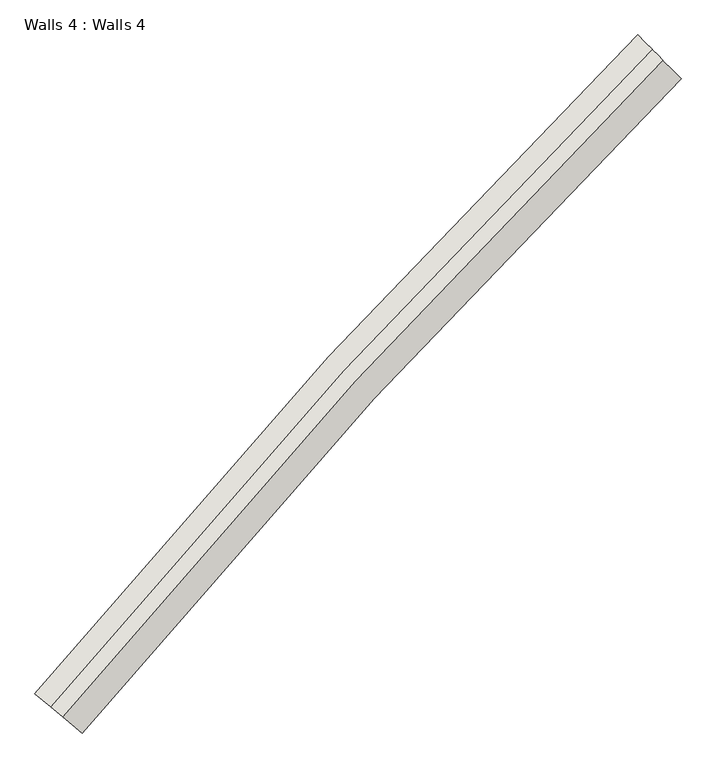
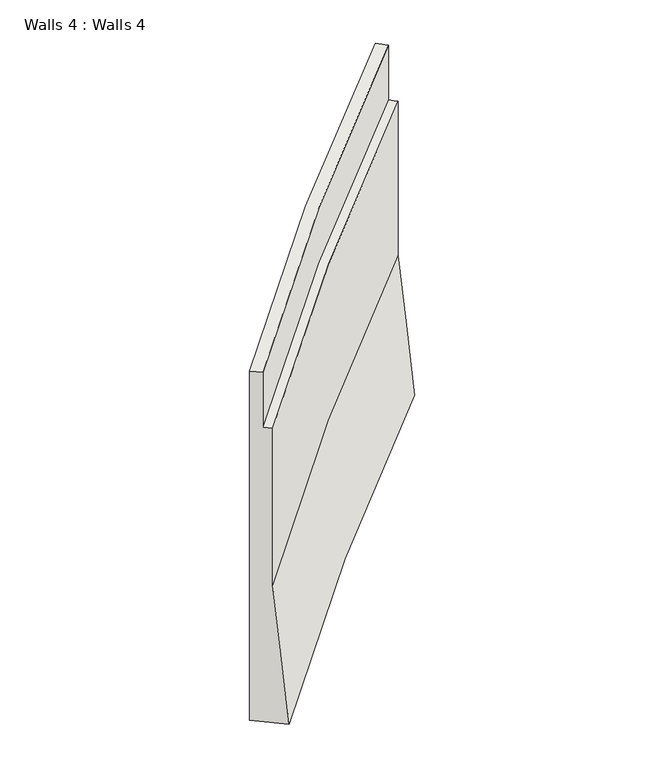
"""IFC4 building model written with IfcOpenShell, lengths in millimetres: wall geometry, Walls 4 : Walls 4."""

from ifc_helpers import new_model, si_unit, frame, origin, place, context, project, spatial, source, transform, mapped, element, save
from ifc_brep_helpers import plane_surface, spline_curve, spline_surface, advanced_brep


def walls_4_walls_4_8975972d(model_context):
    return source(origin(), model_context, "Body", "AdvancedBrep", [
        advanced_brep(
        [(-332545.4322119, -478168.2290481, 640640.0), (-332404.6384625, -478310.2752382, 640640.0), (-332404.6384625, -478310.2752382, 639640.0), (-332299.0431504, -478416.8098808, 639640.0), (-332299.0431504, -478416.8098808, 636840.0), (-332123.0509637, -478594.3676184, 634340.0), (-332545.4322119, -478168.2290481, 634340.0), (-338419.0343239, -484581.6428437, 640610.0), (-338419.0343239, -484581.6428437, 634250.0), (-337957.4957283, -484965.0253221, 634250.0), (-338149.8034764, -484805.2826228, 636750.0), (-338149.8034764, -484805.2826228, 639610.0), (-338265.1881254, -484709.4370032, 639610.0), (-338265.1881254, -484709.4370032, 640610.0)],
        [
            (0, 1),
            (1, 2),
            (2, 3),
            (3, 4),
            (4, 5),
            (5, 6),
            (6, 0),
            (7, 8),
            (8, 9),
            (9, 10),
            (10, 11),
            (11, 12),
            (12, 13),
            (13, 7),
            (7, 0, spline_curve(3, [(-338419.0343239, -484581.6428437, 640610.0), (-337492.526667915, -483466.257904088, 640615.000000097), (-336539.058668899, -482373.267976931, 640619.999999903), (-334580.428880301, -480234.630890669, 640630.000000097), (-333575.267090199, -479188.983731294, 640634.999999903), (-332545.4322119, -478168.2290481, 640640.0)], [4, 2, 4], [0.0, 14.270559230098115, 28.541118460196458])),
            (6, 8, spline_curve(3, [(-332545.4322119, -478168.2290481, 634340.0), (-333575.267090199, -479188.983731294, 634325.000000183), (-334580.428880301, -480234.630890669, 634309.999999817), (-336539.058668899, -482373.267976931, 634280.000000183), (-337492.526667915, -483466.257904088, 634264.999999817), (-338419.0343239, -484581.6428437, 634250.0)], [4, 2, 4], [0.0, 14.270559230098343, 28.541118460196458])),
            (13, 1, spline_curve(3, [(-338265.1881254, -484709.4370032, 640610.0), (-337340.739374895, -483596.530696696, 640614.9999998), (-336389.390194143, -482505.969636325, 640620.0000002), (-334435.112916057, -480372.085076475, 640629.9999998), (-333432.184819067, -479328.76157772, 640635.0000002), (-332404.6384625, -478310.2752382, 640640.0)], [4, 2, 4], [0.0, 14.254448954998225, 28.50889790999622])),
            (11, 3, spline_curve(3, [(-338149.8034764, -484805.2826228, 639610.0), (-337226.89890563, -483694.235291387, 639614.99999984), (-336277.138837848, -482605.495880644, 639620.00000016), (-334326.125942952, -480475.175716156, 639629.99999984), (-333324.873115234, -479433.594962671, 639635.00000016), (-332299.0431504, -478416.8098808, 639640.0)], [4, 2, 4], [0.0, 14.226701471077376, 28.453402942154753])),
            (2, 12, spline_curve(3, [(-332404.6384625, -478310.2752382, 639640.0), (-333432.184819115, -479328.76157796, 639635.00000016), (-334435.11291613, -480372.085076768, 639629.99999984), (-336389.39019407, -482505.969636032, 639620.00000016), (-337340.739375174, -483596.530696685, 639614.99999984), (-338265.1881254, -484709.4370032, 639610.0)], [4, 2, 4], [0.0, 14.226701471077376, 28.453402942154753])),
            (9, 5, spline_curve(3, [(-337957.4957283, -484965.0253221, 634250.0), (-337037.164790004, -483857.076282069, 634264.999999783), (-336090.053244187, -482771.372954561, 634280.000000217), (-334144.480987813, -480646.993448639, 634309.999999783), (-333146.020276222, -479608.31727033, 634325.000000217), (-332123.0509637, -478594.3676184, 634340.0)], [4, 2, 4], [0.0, 14.195672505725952, 28.39134501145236])),
            (4, 10, spline_curve(3, [(-332299.0431504, -478416.8098808, 636840.0), (-333324.873115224, -479433.594962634, 636825.000000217), (-334326.125942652, -480475.175716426, 636809.999999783), (-336277.138838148, -482605.495880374, 636780.000000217), (-337226.898905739, -483694.235291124, 636764.999999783), (-338149.8034764, -484805.2826228, 636750.0)], [4, 2, 4], [0.0, 14.195672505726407, 28.39134501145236])),
        ],
        [
            plane_surface(frame((-332374.4683733, -478340.7137075, 638011.4285714), z_axis=(0.7102309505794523, 0.7039687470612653, 0.0), x_axis=(0.7039687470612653, -0.7102309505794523, 0.0))),
            plane_surface(frame((-338232.2210828, -484736.8214659, 637955.7142857), z_axis=(-0.6389707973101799, -0.7692309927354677, 0.0), x_axis=(0.7692309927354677, -0.6389707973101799, 0.0))),
            spline_surface(3, 3, [[(-338419.0343239, -484581.6428437, 634250.0), (-337492.526667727, -483466.257904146, 634265.0), (-336539.058668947, -482373.267976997, 634280.0), (-334580.428880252, -480234.630890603, 634310.0), (-333575.267090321, -479188.98373142, 634325.0), (-332545.4322119, -478168.2290481, 634340.0)], [(-338419.0343239, -484581.6428437, 635310.0), (-337492.526667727, -483466.257904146, 635323.333333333), (-336539.058668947, -482373.267976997, 635336.666666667), (-334580.428880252, -480234.630890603, 635363.333333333), (-333575.267090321, -479188.98373142, 635376.666666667), (-332545.4322119, -478168.2290481, 635390.0)], [(-338419.0343239, -484581.6428437, 636370.0), (-337492.526667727, -483466.257904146, 636381.666666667), (-336539.058668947, -482373.267976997, 636393.333333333), (-334580.428880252, -480234.630890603, 636416.666666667), (-333575.267090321, -479188.98373142, 636428.333333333), (-332545.4322119, -478168.2290481, 636440.0)], [(-338419.0343239, -484581.6428437, 638490.0), (-337492.526667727, -483466.257904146, 638498.333333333), (-336539.058668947, -482373.267976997, 638506.666666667), (-334580.428880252, -480234.630890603, 638523.333333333), (-333575.267090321, -479188.98373142, 638531.666666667), (-332545.4322119, -478168.2290481, 638540.0)], [(-338419.0343239, -484581.6428437, 639550.0), (-337492.526667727, -483466.257904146, 639556.666666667), (-336539.058668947, -482373.267976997, 639563.333333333), (-334580.428880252, -480234.630890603, 639576.666666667), (-333575.267090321, -479188.98373142, 639583.333333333), (-332545.4322119, -478168.2290481, 639590.0)], [(-338419.0343239, -484581.6428437, 640610.0), (-337492.526667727, -483466.257904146, 640615.0), (-336539.058668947, -482373.267976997, 640620.0), (-334580.428880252, -480234.630890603, 640630.0), (-333575.267090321, -479188.98373142, 640635.0), (-332545.4322119, -478168.2290481, 640640.0)]], [4, 2, 4], [4, 2, 4], [0.0, 10.383858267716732, 20.767716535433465], [0.0, 14.270559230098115, 28.541118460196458]),
            spline_surface(3, 3, [[(-338419.0343239, -484581.6428437, 640610.0), (-337492.526667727, -483466.257904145, 640615.0), (-336539.058668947, -482373.267976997, 640620.0), (-334580.428880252, -480234.630890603, 640630.0), (-333575.267090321, -479188.98373142, 640635.0), (-332545.4322119, -478168.2290481, 640640.0)], [(-338393.393290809, -484602.941870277, 640610.0), (-337467.22878562, -483487.970036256, 640615.0), (-336514.113923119, -482395.384920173, 640620.0), (-334556.209552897, -480257.539921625, 640630.0), (-333551.420045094, -479212.280039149, 640635.0), (-332521.966586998, -478191.903413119, 640640.0)], [(-338367.752257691, -484624.240896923, 640610.0), (-337441.930903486, -483509.682168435, 640615.0), (-336489.169177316, -482417.501863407, 640620.0), (-334531.990225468, -480280.448952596, 640630.0), (-333527.572999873, -479235.57634682, 640635.0), (-332498.500962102, -478215.577778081, 640640.0)], [(-338316.470191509, -484666.838950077, 640610.0), (-337391.335139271, -483553.106432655, 640615.0), (-336439.279685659, -482461.735749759, 640620.0), (-334483.551570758, -480326.267014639, 640630.0), (-333479.878909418, -479282.168962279, 640635.0), (-332451.569712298, -478262.926508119, 640640.0)], [(-338290.829158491, -484688.137976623, 640610.0), (-337366.037257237, -483574.818564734, 640615.0), (-336414.334939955, -482483.852692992, 640620.0), (-334459.332243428, -480349.17604561, 640630.0), (-333456.031864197, -479305.46527005, 640635.0), (-332428.104087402, -478286.600873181, 640640.0)], [(-338265.1881254, -484709.4370032, 640610.0), (-337340.739375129, -483596.530696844, 640615.0), (-336389.390194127, -482505.969636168, 640620.0), (-334435.112916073, -480372.085076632, 640630.0), (-333432.18481897, -479328.761577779, 640635.0), (-332404.6384625, -478310.2752382, 640640.0)]], [4, 2, 4], [4, 2, 4], [0.0, 0.3280839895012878, 0.6561679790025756], [0.0, 14.254448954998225, 28.50889790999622]),
            spline_surface(3, 3, [[(-338265.1881254, -484709.4370032, 639610.0), (-337340.739375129, -483596.530696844, 639615.0), (-336389.390194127, -482505.969636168, 639620.0), (-334435.112916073, -480372.085076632, 639630.0), (-333432.18481897, -479328.761577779, 639635.0), (-332404.6384625, -478310.2752382, 639640.0)], [(-338245.957350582, -484725.411273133, 639610.0), (-337321.765963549, -483612.814795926, 639615.0), (-336370.681634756, -482522.55734355, 639620.0), (-334416.948420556, -480389.266849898, 639630.0), (-333414.299535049, -479346.233808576, 639635.0), (-332387.039243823, -478328.031011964, 639640.0)], [(-338226.726575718, -484741.385543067, 639610.0), (-337302.792551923, -483629.098895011, 639615.0), (-336351.973075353, -482539.145051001, 639620.0), (-334398.783924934, -480406.448623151, 639630.0), (-333396.414251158, -479363.70603938, 639635.0), (-332369.440025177, -478345.786785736, 639640.0)], [(-338188.265026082, -484773.334082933, 639610.0), (-337264.845728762, -483661.667093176, 639615.0), (-336314.555956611, -482572.320465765, 639620.0), (-334362.454933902, -480440.812169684, 639630.0), (-333360.643683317, -479398.650500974, 639635.0), (-332334.241587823, -478381.298333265, 639640.0)], [(-338169.034251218, -484789.308352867, 639610.0), (-337245.872317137, -483677.95119226, 639615.0), (-336295.847397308, -482588.908173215, 639620.0), (-334344.290438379, -480457.993942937, 639630.0), (-333342.758399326, -479416.122731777, 639635.0), (-332316.642369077, -478399.054107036, 639640.0)], [(-338149.8034764, -484805.2826228, 639610.0), (-337226.898905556, -483694.235291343, 639615.0), (-336277.138837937, -482605.495880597, 639620.0), (-334326.125942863, -480475.175716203, 639630.0), (-333324.873115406, -479433.594962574, 639635.0), (-332299.0431504, -478416.8098808, 639640.0)]], [4, 2, 4], [4, 2, 4], [0.0, 0.24606299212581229, 0.49212598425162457], [0.0, 14.226701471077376, 28.453402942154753]),
            spline_surface(3, 3, [[(-338149.8034764, -484805.2826228, 636750.0), (-337226.898905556, -483694.235291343, 636765.0), (-336277.138837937, -482605.495880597, 636780.0), (-334326.125942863, -480475.175716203, 636810.0), (-333324.873115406, -479433.594962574, 636825.0), (-332299.0431504, -478416.8098808, 636840.0)], [(-338117.752185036, -484831.906406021, 636333.333333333), (-337195.276552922, -483721.37545648, 636348.333333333), (-336245.957905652, -482633.142059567, 636363.333333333), (-334295.851783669, -480503.81200498, 636393.333333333), (-333295.064308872, -479462.715347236, 636408.333333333), (-332269.711119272, -478446.402837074, 636423.333333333)], [(-338085.700893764, -484858.530189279, 635916.666666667), (-337163.654200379, -483748.515621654, 635931.666666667), (-336214.776973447, -482660.788238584, 635946.666666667), (-334265.577624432, -480532.448293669, 635976.666666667), (-333265.25550242, -479491.835731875, 635991.666666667), (-332240.379088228, -478475.995793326, 636006.666666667)], [(-338021.598311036, -484911.777755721, 635083.333333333), (-337100.409495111, -483802.795951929, 635098.333333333), (-336152.415108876, -482716.080596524, 635113.333333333), (-334205.029306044, -480589.720871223, 635143.333333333), (-333205.637889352, -479550.076501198, 635158.333333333), (-332181.715025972, -478535.181705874, 635173.333333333)], [(-337989.547019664, -484938.401538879, 634666.666666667), (-337068.787142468, -483829.936117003, 634681.666666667), (-336121.234176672, -482743.726775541, 634696.666666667), (-334174.755146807, -480618.357159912, 634726.666666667), (-333175.829082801, -479579.196885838, 634741.666666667), (-332152.382994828, -478564.774662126, 634756.666666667)], [(-337957.4957283, -484965.0253221, 634250.0), (-337037.164789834, -483857.076282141, 634265.0), (-336090.053244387, -482771.372954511, 634280.0), (-334144.480987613, -480646.993448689, 634310.0), (-333146.020276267, -479608.317270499, 634325.0), (-332123.0509637, -478594.3676184, 634340.0)]], [4, 2, 4], [4, 2, 4], [0.0, 4.121504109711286, 8.243008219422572], [0.0, 14.195672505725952, 28.39134501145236]),
            spline_surface(3, 3, [[(-337957.4957283, -484965.0253221, 634250.0), (-337037.164789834, -483857.076282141, 634265.0), (-336090.053244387, -482771.372954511, 634280.0), (-334144.480987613, -480646.993448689, 634310.0), (-333146.020276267, -479608.317270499, 634325.0), (-332123.0509637, -478594.3676184, 634340.0)], [(-338034.418827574, -484901.128242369, 634250.0), (-337113.058436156, -483791.939885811, 634265.0), (-336164.887481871, -482705.022124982, 634280.0), (-334217.138969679, -480578.266355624, 634310.0), (-333217.561411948, -479538.428347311, 634325.0), (-332193.447838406, -478523.344523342, 634340.0)], [(-338111.341926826, -484837.231162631, 634250.0), (-337188.952082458, -483726.803489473, 634265.0), (-336239.721719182, -482638.671295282, 634280.0), (-334289.796951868, -480509.539262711, 634310.0), (-333289.102547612, -479468.539424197, 634325.0), (-332263.844713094, -478452.321428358, 634340.0)], [(-338265.188125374, -484709.437003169, 634250.0), (-337340.739375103, -483596.530696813, 634265.0), (-336389.390194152, -482505.969636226, 634280.0), (-334435.112915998, -480372.085076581, 634310.0), (-333432.184818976, -479328.761577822, 634325.0), (-332404.638462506, -478310.275238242, 634340.0)], [(-338342.111224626, -484645.539923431, 634250.0), (-337416.633021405, -483531.394300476, 634265.0), (-336464.224431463, -482439.618806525, 634280.0), (-334507.770898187, -480303.357983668, 634310.0), (-333503.725954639, -479258.872654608, 634325.0), (-332475.035337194, -478239.252143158, 634340.0)], [(-338419.0343239, -484581.6428437, 634250.0), (-337492.526667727, -483466.257904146, 634265.0), (-336539.058668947, -482373.267976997, 634280.0), (-334580.428880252, -480234.630890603, 634310.0), (-333575.267090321, -479188.98373142, 634325.0), (-332545.4322119, -478168.2290481, 634340.0)]], [4, 2, 4], [4, 2, 4], [0.0, 0.9842519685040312, 1.9685039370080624], [0.0, 14.223418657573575, 28.44683731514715]),
            spline_surface(3, 3, [[(-338265.1881254, -484709.4370032, 640610.0), (-337340.739375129, -483596.530696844, 640615.0), (-336389.390194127, -482505.969636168, 640620.0), (-334435.112916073, -480372.085076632, 640630.0), (-333432.18481897, -479328.761577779, 640635.0), (-332404.6384625, -478310.2752382, 640640.0)], [(-338265.1881254, -484709.4370032, 640443.333333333), (-337340.739375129, -483596.530696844, 640448.333333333), (-336389.390194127, -482505.969636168, 640453.333333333), (-334435.112916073, -480372.085076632, 640463.333333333), (-333432.18481897, -479328.761577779, 640468.333333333), (-332404.6384625, -478310.2752382, 640473.333333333)], [(-338265.1881254, -484709.4370032, 640276.666666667), (-337340.739375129, -483596.530696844, 640281.666666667), (-336389.390194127, -482505.969636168, 640286.666666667), (-334435.112916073, -480372.085076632, 640296.666666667), (-333432.18481897, -479328.761577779, 640301.666666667), (-332404.6384625, -478310.2752382, 640306.666666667)], [(-338265.1881254, -484709.4370032, 639943.333333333), (-337340.739375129, -483596.530696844, 639948.333333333), (-336389.390194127, -482505.969636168, 639953.333333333), (-334435.112916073, -480372.085076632, 639963.333333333), (-333432.18481897, -479328.761577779, 639968.333333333), (-332404.6384625, -478310.2752382, 639973.333333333)], [(-338265.1881254, -484709.4370032, 639776.666666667), (-337340.739375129, -483596.530696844, 639781.666666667), (-336389.390194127, -482505.969636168, 639786.666666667), (-334435.112916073, -480372.085076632, 639796.666666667), (-333432.18481897, -479328.761577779, 639801.666666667), (-332404.6384625, -478310.2752382, 639806.666666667)], [(-338265.1881254, -484709.4370032, 639610.0), (-337340.739375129, -483596.530696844, 639615.0), (-336389.390194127, -482505.969636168, 639620.0), (-334435.112916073, -480372.085076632, 639630.0), (-333432.18481897, -479328.761577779, 639635.0), (-332404.6384625, -478310.2752382, 639640.0)]], [4, 2, 4], [4, 2, 4], [0.0, 1.6404199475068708, 3.2808398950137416], [0.0, 14.238593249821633, 28.477186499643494]),
            spline_surface(3, 3, [[(-338149.8034764, -484805.2826228, 639610.0), (-337226.898905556, -483694.235291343, 639615.0), (-336277.138837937, -482605.495880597, 639620.0), (-334326.125942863, -480475.175716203, 639630.0), (-333324.873115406, -479433.594962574, 639635.0), (-332299.0431504, -478416.8098808, 639640.0)], [(-338149.8034764, -484805.2826228, 639133.333333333), (-337226.898905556, -483694.235291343, 639140.0), (-336277.138837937, -482605.495880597, 639146.666666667), (-334326.125942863, -480475.175716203, 639160.0), (-333324.873115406, -479433.594962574, 639166.666666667), (-332299.0431504, -478416.8098808, 639173.333333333)], [(-338149.8034764, -484805.2826228, 638656.666666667), (-337226.898905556, -483694.235291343, 638665.0), (-336277.138837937, -482605.495880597, 638673.333333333), (-334326.125942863, -480475.175716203, 638690.0), (-333324.873115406, -479433.594962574, 638698.333333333), (-332299.0431504, -478416.8098808, 638706.666666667)], [(-338149.8034764, -484805.2826228, 637703.333333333), (-337226.898905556, -483694.235291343, 637715.0), (-336277.138837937, -482605.495880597, 637726.666666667), (-334326.125942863, -480475.175716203, 637750.0), (-333324.873115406, -479433.594962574, 637761.666666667), (-332299.0431504, -478416.8098808, 637773.333333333)], [(-338149.8034764, -484805.2826228, 637226.666666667), (-337226.898905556, -483694.235291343, 637240.0), (-336277.138837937, -482605.495880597, 637253.333333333), (-334326.125942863, -480475.175716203, 637280.0), (-333324.873115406, -479433.594962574, 637293.333333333), (-332299.0431504, -478416.8098808, 637306.666666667)], [(-338149.8034764, -484805.2826228, 636750.0), (-337226.898905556, -483694.235291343, 636765.0), (-336277.138837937, -482605.495880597, 636780.0), (-334326.125942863, -480475.175716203, 636810.0), (-333324.873115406, -479433.594962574, 636825.0), (-332299.0431504, -478416.8098808, 636840.0)]], [4, 2, 4], [4, 2, 4], [0.0, 4.642388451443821, 9.284776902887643], [0.0, 14.215065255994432, 28.430130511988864]),
        ],
        [
            (0, [[1, 2, 3, 4, 5, 6, 7]]),
            (1, [[8, 9, 10, 11, 12, 13, 14]]),
            (2, [[-8, 15, -7, 16]]),
            (3, [[-14, 17, -1, -15]]),
            (4, [[-12, 18, -3, 19]]),
            (5, [[-10, 20, -5, 21]]),
            (6, [[-9, -16, -6, -20]]),
            (7, [[-13, -19, -2, -17]]),
            (8, [[-11, -21, -4, -18]]),
        ],
    ),
    ])


if __name__ == "__main__":
    model = new_model("IFC4")
    model_context = context("Model", 3, world=origin())
    ifc_project = project(units=[si_unit("LENGTHUNIT", "METRE", prefix="MILLI")], contexts=[model_context])
    site = spatial("IfcSite", under=ifc_project)
    building = spatial("IfcBuilding", under=site)
    placement = place(None, origin())
    walls_4_walls_4_shape = walls_4_walls_4_8975972d(model_context)
    element("IfcWall", 1, ObjectType="Walls 4 : Walls 4", at=placement, inside=building, context=model_context, shape_type="MappedRepresentation", body=[
        mapped(walls_4_walls_4_shape, transform((0.0, 0.0, 0.0), x_axis=(1.0, 0.0, 0.0), y_axis=(0.0, 1.0, 0.0), z_axis=(0.0, 0.0, 1.0))),
    ])
    save(model, "model.ifc")
